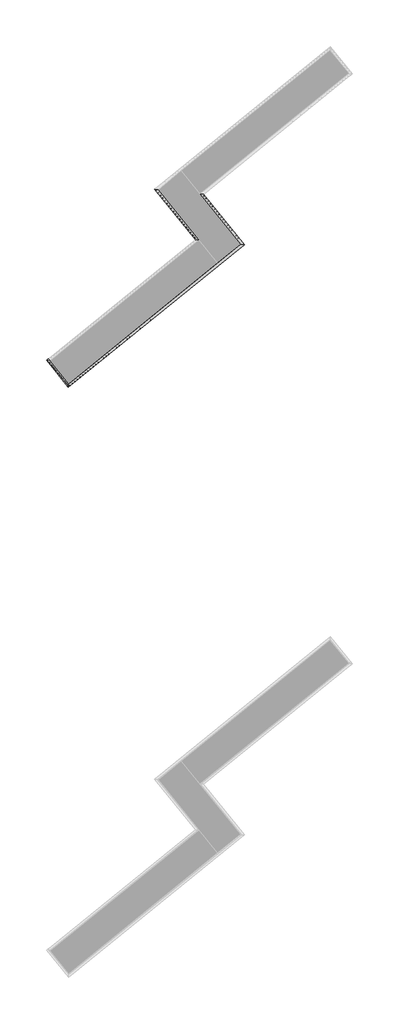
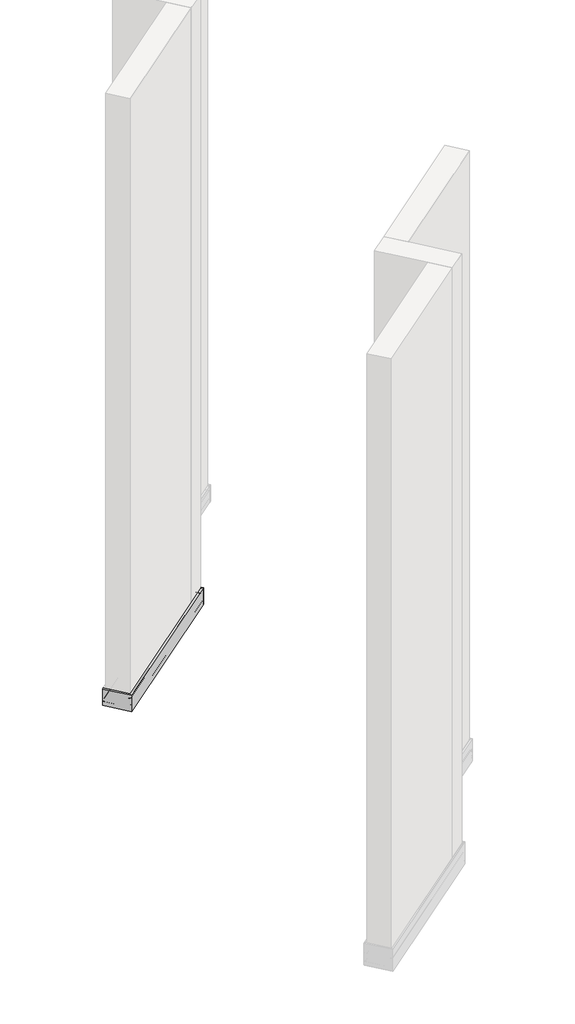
# One storey, part 11 of 21: 3 proxies.
"""IFC4 building model written with IfcOpenShell, lengths in millimetres."""

from ifc_helpers import new_model, si_unit, frame, origin, place, context, project, spatial, circle_curve, ellipse_curve, element, save
from ifc_brep_helpers import plane_surface, cylinder_surface, advanced_brep

model = new_model("IFC4")

# Units and contexts
model_context = context("Model", 3, world=origin())
ifc_project = project(units=[si_unit("LENGTHUNIT", "METRE", prefix="MILLI")], contexts=[model_context])

# Site, building, storey
site = spatial("IfcSite", under=ifc_project)
building = spatial("IfcBuilding", under=site)
storey = spatial("IfcBuildingStorey", under=building, Name="Izofleks 2D View", Elevation=0.0)

# Proxies
placement = place(None, origin())
element("IfcBuildingElementProxy", 1, Name="Wall Sweeps", at=placement, inside=storey, context=model_context, shape_type="AdvancedBrep", body=[
    advanced_brep(
    [(2296.8983438, -3174.5855554, 18.3), (2297.5691855, -3174.6560638, 17.65), (2296.8983438, -3174.5855554, 17.0), (2289.866434, -3173.8464719, 17.0), (2289.866434, -3173.8464719, 0.0), (2288.0380278, -3173.6542987, 0.0), (2288.0380278, -3173.6542987, 54.9539392), (2289.866434, -3173.8464719, 54.0), (2289.866434, -3173.8464719, 47.8897878), (2293.369118, -3174.2146189, 47.8897878), (2292.064077, -3174.0774535, 48.4041237), (2291.3726552, -3174.0047822, 48.9953783), (2294.0078588, -3174.2817532, 59.0889272), (2294.7513255, -3174.3598947, 59.697019), (2299.039841, -3174.8106359, 59.697019), (2299.039841, -3174.8106359, 75.2072285), (2289.6169384, -3173.8202489, 75.2072285), (2289.6169384, -3173.8202489, 76.5072312), (2300.8686692, -3175.0028535, 76.5072312), (2300.8686692, -3175.0028535, 0.5072312), (2296.2269083, -3174.5149847, 0.5072312), (2296.2269083, -3174.5149847, 1.8072312), (2299.039841, -3174.8106359, 1.8072312), (2299.039841, -3174.8106359, 28.807219), (2295.6537121, -3174.4547394, 28.807219), (2295.4447315, -3174.4327746, 28.0173861), (2296.7219024, -3174.5670107, 28.0173861), (2297.4086935, -3174.6391954, 27.4098979), (2294.5883098, -3174.3427611, 18.3), (2435.3488299, -3345.557667, 18.3), (2433.0387959, -3345.3148726, 18.3), (2435.8591795, -3345.6113069, 27.4098979), (2435.1723884, -3345.5391222, 28.0173861), (2433.8952175, -3345.4048862, 28.0173861), (2434.1041981, -3345.4268509, 28.807219), (2437.4903271, -3345.7827474, 28.807219), (2437.4903271, -3345.7827474, 1.8072312), (2434.6773944, -3345.4870963, 1.8072312), (2434.6773944, -3345.4870963, 0.5072312), (2439.3191553, -3345.974965, 0.5072312), (2439.3191553, -3345.974965, 76.5072312), (2428.0674244, -3344.7923604, 76.5072312), (2428.0674244, -3344.7923604, 75.2072285), (2437.4903271, -3345.7827474, 75.2072285), (2437.4903271, -3345.7827474, 59.697019), (2433.2018115, -3345.3320062, 59.697019), (2432.4583448, -3345.2538647, 59.0889272), (2429.8231412, -3344.9768937, 48.9953783), (2430.514563, -3345.049565, 48.4041237), (2431.819604, -3345.1867304, 47.8897878), (2428.31692, -3344.8185835, 47.8897878), (2428.31692, -3344.8185835, 54.0), (2426.4885138, -3344.6264102, 54.9539392), (2426.4885138, -3344.6264102, 0.0), (2428.31692, -3344.8185835, 0.0), (2428.31692, -3344.8185835, 17.0), (2435.3488299, -3345.557667, 17.0), (2436.0196716, -3345.6281753, 17.65)],
    [
        (0, 1, ellipse_curve(frame((2296.8983438, -3174.5855554, 17.8), z_axis=(0.10452846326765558, 0.9945218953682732, 0.0), x_axis=(-0.9945218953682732, 0.10452846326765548, 0.0)), 0.7071068, 0.5)),
        (1, 2, ellipse_curve(frame((2296.8983438, -3174.5855554, 17.5), z_axis=(0.10452846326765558, 0.9945218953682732, 0.0), x_axis=(-0.9945218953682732, 0.10452846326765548, 0.0)), 0.7071068, 0.5)),
        (2, 3),
        (3, 4),
        (4, 5),
        (5, 6),
        (6, 7, ellipse_curve(frame((2288.4599677, -3173.6986464, 54.0), z_axis=(0.10452846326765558, 0.9945218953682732, 0.0), x_axis=(-0.9945218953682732, 0.10452846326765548, 0.0)), 1.4142136, 1.0)),
        (7, 8),
        (8, 9),
        (9, 10),
        (10, 11, ellipse_curve(frame((2292.064077, -3174.0774535, 48.9041237), z_axis=(0.10452846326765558, 0.9945218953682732, 0.0), x_axis=(-0.9945218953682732, 0.10452846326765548, 0.0)), 0.7071068, 0.5)),
        (11, 12),
        (12, 13, ellipse_curve(frame((2294.7513255, -3174.3598947, 59.163218), z_axis=(0.10452846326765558, 0.9945218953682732, 0.0), x_axis=(-0.9945218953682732, 0.10452846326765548, 0.0)), 0.7549087, 0.533801)),
        (13, 14),
        (14, 15),
        (15, 16),
        (16, 17),
        (17, 18),
        (18, 19),
        (19, 20),
        (20, 21),
        (21, 22),
        (22, 23),
        (23, 24),
        (24, 25),
        (25, 26),
        (26, 27, ellipse_curve(frame((2296.7219024, -3174.5670107, 27.5173861), z_axis=(0.10452846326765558, 0.9945218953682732, 0.0), x_axis=(-0.9945218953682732, 0.10452846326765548, 0.0)), 0.7071068, 0.5)),
        (27, 28),
        (28, 0),
        (29, 30),
        (30, 31),
        (31, 32, ellipse_curve(frame((2435.1723884, -3345.5391222, 27.5173861), z_axis=(-0.1045284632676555, -0.9945218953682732, 0.0), x_axis=(-0.9945218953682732, 0.1045284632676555, 0.0)), 0.7071068, 0.5)),
        (32, 33),
        (33, 34),
        (34, 35),
        (35, 36),
        (36, 37),
        (37, 38),
        (38, 39),
        (39, 40),
        (40, 41),
        (41, 42),
        (42, 43),
        (43, 44),
        (44, 45),
        (45, 46, ellipse_curve(frame((2433.2018115, -3345.3320062, 59.163218), z_axis=(-0.1045284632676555, -0.9945218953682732, 0.0), x_axis=(-0.9945218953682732, 0.1045284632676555, 0.0)), 0.7549087, 0.533801)),
        (46, 47),
        (47, 48, ellipse_curve(frame((2430.514563, -3345.049565, 48.9041237), z_axis=(-0.1045284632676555, -0.9945218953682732, 0.0), x_axis=(-0.9945218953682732, 0.1045284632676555, 0.0)), 0.7071068, 0.5)),
        (48, 49),
        (49, 50),
        (50, 51),
        (51, 52, ellipse_curve(frame((2426.9104537, -3344.6707579, 54.0), z_axis=(-0.1045284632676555, -0.9945218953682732, 0.0), x_axis=(-0.9945218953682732, 0.1045284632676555, 0.0)), 1.4142136, 1.0)),
        (52, 53),
        (53, 54),
        (54, 55),
        (55, 56),
        (56, 57, ellipse_curve(frame((2435.3488299, -3345.557667, 17.5), z_axis=(-0.1045284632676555, -0.9945218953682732, 0.0), x_axis=(-0.9945218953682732, 0.1045284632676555, 0.0)), 0.7071068, 0.5)),
        (57, 29, ellipse_curve(frame((2435.3488299, -3345.557667, 17.8), z_axis=(-0.1045284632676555, -0.9945218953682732, 0.0), x_axis=(-0.9945218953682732, 0.1045284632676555, 0.0)), 0.7071068, 0.5)),
        (0, 29),
        (57, 1),
        (56, 2),
        (55, 3),
        (54, 4),
        (53, 5),
        (52, 6),
        (51, 7),
        (50, 8),
        (49, 9),
        (48, 10),
        (47, 11),
        (46, 12),
        (45, 13),
        (44, 14),
        (43, 15),
        (42, 16),
        (41, 17),
        (40, 18),
        (39, 19),
        (38, 20),
        (37, 21),
        (36, 22),
        (35, 23),
        (34, 24),
        (33, 25),
        (32, 26),
        (31, 27),
        (30, 28),
    ],
    [
        plane_surface(frame((2288.0380278, -3173.6542987, -304.8), z_axis=(0.10452846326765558, 0.9945218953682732, 0.0), x_axis=(0.9945218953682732, -0.10452846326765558, 0.0))),
        plane_surface(frame((2426.4885138, -3344.6264102, 304.8), z_axis=(-0.1045284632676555, -0.9945218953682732, 0.0), x_axis=(-0.9945218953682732, 0.1045284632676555, 0.0))),
        cylinder_surface(frame((2292.9338142, -3169.689769, 17.8), z_axis=(-0.629320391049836, 0.7771459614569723, 0.0), x_axis=(0.7771459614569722, 0.6293203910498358, -1.2369127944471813e-08)), 0.5),
        cylinder_surface(frame((2292.9338142, -3169.689769, 17.5), z_axis=(-0.6293203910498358, 0.7771459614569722, 0.0), x_axis=(0.0, 0.0, -1.0)), 0.5),
        plane_surface(frame((2296.8983438, -3174.5855554, 17.0), z_axis=(0.0, 0.0, -1.0), x_axis=(0.6293203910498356, -0.7771459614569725, 0.0))),
        plane_surface(frame((2289.866434, -3173.8464719, 17.0), z_axis=(0.7771459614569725, 0.6293203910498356, 0.0), x_axis=(0.6293203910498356, -0.7771459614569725, 0.0))),
        plane_surface(frame((2289.866434, -3173.8464719, 0.0), z_axis=(0.0, 0.0, -1.0), x_axis=(0.6293203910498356, -0.7771459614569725, 0.0))),
        plane_surface(frame((2288.0380278, -3173.6542987, 0.0), z_axis=(-0.7771459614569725, -0.6293203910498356, 0.0), x_axis=(0.6293203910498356, -0.7771459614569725, 0.0))),
        cylinder_surface(frame((2288.2711715, -3173.4655026, 54.0), z_axis=(-0.6293203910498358, 0.7771459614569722, 0.0), x_axis=(0.7771459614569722, 0.6293203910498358, 0.0)), 1.0),
        plane_surface(frame((2289.866434, -3173.8464719, 54.0), z_axis=(0.7771459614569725, 0.6293203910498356, 0.0), x_axis=(0.6293203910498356, -0.7771459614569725, 0.0))),
        plane_surface(frame((2289.866434, -3173.8464719, 47.8897878), z_axis=(0.0, 0.0, 1.0), x_axis=(0.6293203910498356, -0.7771459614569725, 0.0))),
        plane_surface(frame((2293.369118, -3174.2146189, 47.8897878), z_axis=(-0.37676783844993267, -0.30510057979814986, -0.8746197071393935), x_axis=(0.6293203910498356, -0.7771459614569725, 0.0))),
        cylinder_surface(frame((2290.2626298, -3171.8528515, 48.9041237), z_axis=(-0.6293203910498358, 0.7771459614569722, 0.0), x_axis=(-0.764093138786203, -0.6187504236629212, 0.18250914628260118)), 0.5),
        plane_surface(frame((2291.3726552, -3174.0047822, 48.9953783), z_axis=(-0.7640931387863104, -0.6187504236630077, 0.18250914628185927), x_axis=(0.6293203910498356, -0.7771459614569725, 0.0))),
        cylinder_surface(frame((2291.7474746, -3170.6504478, 59.163218), z_axis=(-0.6293203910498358, 0.7771459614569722, 0.0), x_axis=(0.7771459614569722, 0.6293203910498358, 0.0)), 0.533801),
        plane_surface(frame((2294.7513255, -3174.3598947, 59.697019), z_axis=(0.0, 0.0, 1.0), x_axis=(0.6293203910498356, -0.7771459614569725, 0.0))),
        plane_surface(frame((2299.039841, -3174.8106359, 59.697019), z_axis=(-0.7771459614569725, -0.6293203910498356, 0.0), x_axis=(0.6293203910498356, -0.7771459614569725, 0.0))),
        plane_surface(frame((2299.039841, -3174.8106359, 75.2072285), z_axis=(0.0, 0.0, -1.0), x_axis=(0.6293203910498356, -0.7771459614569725, 0.0))),
        plane_surface(frame((2289.6169384, -3173.8202489, 75.2072285), z_axis=(-0.7771459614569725, -0.6293203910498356, 0.0), x_axis=(0.6293203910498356, -0.7771459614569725, 0.0))),
        plane_surface(frame((2289.6169384, -3173.8202489, 76.5072312), z_axis=(0.0, 0.0, 1.0), x_axis=(0.6293203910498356, -0.7771459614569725, 0.0))),
        plane_surface(frame((2300.8686692, -3175.0028535, 76.5072312), z_axis=(0.7771459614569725, 0.6293203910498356, 0.0), x_axis=(0.6293203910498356, -0.7771459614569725, 0.0))),
        plane_surface(frame((2300.8686692, -3175.0028535, 0.5072312), z_axis=(0.0, 0.0, -1.0), x_axis=(0.6293203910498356, -0.7771459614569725, 0.0))),
        plane_surface(frame((2296.2269083, -3174.5149847, 0.5072312), z_axis=(-0.7771459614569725, -0.6293203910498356, 0.0), x_axis=(0.6293203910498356, -0.7771459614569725, 0.0))),
        plane_surface(frame((2296.2269083, -3174.5149847, 1.8072312), z_axis=(0.0, 0.0, 1.0), x_axis=(0.6293203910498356, -0.7771459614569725, 0.0))),
        plane_surface(frame((2299.039841, -3174.8106359, 1.8072312), z_axis=(-0.7771459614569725, -0.6293203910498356, 0.0), x_axis=(0.6293203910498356, -0.7771459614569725, 0.0))),
        plane_surface(frame((2299.039841, -3174.8106359, 28.807219), z_axis=(0.0, 0.0, -1.0), x_axis=(0.6293203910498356, -0.7771459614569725, 0.0))),
        plane_surface(frame((2295.6537121, -3174.4547394, 28.807219), z_axis=(0.7637488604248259, 0.618471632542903, -0.1848797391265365), x_axis=(0.6293203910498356, -0.7771459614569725, 0.0))),
        plane_surface(frame((2295.4447315, -3174.4327746, 28.0173861), z_axis=(0.0, 0.0, 1.0), x_axis=(0.6293203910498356, -0.7771459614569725, 0.0))),
        cylinder_surface(frame((2292.8363211, -3169.7687174, 27.5173861), z_axis=(-0.6293203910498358, 0.7771459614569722, 0.0), x_axis=(0.7589795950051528, 0.614609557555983, -0.2149536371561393)), 0.5),
        plane_surface(frame((2297.4086935, -3174.6391954, 27.4098979), z_axis=(0.7589757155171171, 0.6146064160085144, -0.21497631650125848), x_axis=(0.6293203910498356, -0.7771459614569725, 0.0))),
        plane_surface(frame((2294.5883098, -3174.3427611, 18.3), z_axis=(0.0, 0.0, 1.0), x_axis=(0.6293203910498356, -0.7771459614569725, 0.0))),
    ],
    [
        (0, [[1, 2, 3, 4, 5, 6, 7, 8, 9, 10, 11, 12, 13, 14, 15, 16, 17, 18, 19, 20, 21, 22, 23, 24, 25, 26, 27, 28, 29]]),
        (1, [[30, 31, 32, 33, 34, 35, 36, 37, 38, 39, 40, 41, 42, 43, 44, 45, 46, 47, 48, 49, 50, 51, 52, 53, 54, 55, 56, 57, 58]]),
        (2, [[-1, 59, -58, 60]]),
        (3, [[-2, -60, -57, 61]]),
        (4, [[-3, -61, -56, 62]]),
        (5, [[-4, -62, -55, 63]]),
        (6, [[-5, -63, -54, 64]]),
        (7, [[-6, -64, -53, 65]]),
        (8, [[-7, -65, -52, 66]]),
        (9, [[-8, -66, -51, 67]]),
        (10, [[-9, -67, -50, 68]]),
        (11, [[-10, -68, -49, 69]]),
        (12, [[-11, -69, -48, 70]]),
        (13, [[-12, -70, -47, 71]]),
        (14, [[-13, -71, -46, 72]]),
        (15, [[-14, -72, -45, 73]]),
        (16, [[-15, -73, -44, 74]]),
        (17, [[-16, -74, -43, 75]]),
        (18, [[-17, -75, -42, 76]]),
        (19, [[-18, -76, -41, 77]]),
        (20, [[-19, -77, -40, 78]]),
        (21, [[-20, -78, -39, 79]]),
        (22, [[-21, -79, -38, 80]]),
        (23, [[-22, -80, -37, 81]]),
        (24, [[-23, -81, -36, 82]]),
        (25, [[-24, -82, -35, 83]]),
        (26, [[-25, -83, -34, 84]]),
        (27, [[-26, -84, -33, 85]]),
        (28, [[-27, -85, -32, 86]]),
        (29, [[-28, -86, -31, 87]]),
        (30, [[-29, -87, -30, -59]]),
    ],
),
])
element("IfcBuildingElementProxy", 2, Name="Wall Sweeps", at=placement, inside=storey, context=model_context, shape_type="AdvancedBrep", body=[
    advanced_brep(
    [(2138.5310764, -3157.9404849, 18.3), (2140.8411104, -3158.1832793, 18.3), (2138.0207268, -3157.886845, 27.4098979), (2138.7075178, -3157.9590297, 28.0173861), (2139.9846888, -3158.0932657, 28.0173861), (2139.7757082, -3158.071301, 28.807219), (2136.3895792, -3157.7154045, 28.807219), (2136.3895792, -3157.7154045, 1.8072312), (2139.2025119, -3158.0110556, 1.8072312), (2139.2025119, -3158.0110556, 0.5072312), (2134.560751, -3157.5231869, 0.5072312), (2134.560751, -3157.5231869, 76.5072312), (2145.8124819, -3158.7057915, 76.5072312), (2145.8124819, -3158.7057915, 75.2072285), (2136.3895792, -3157.7154045, 75.2072285), (2136.3895792, -3157.7154045, 59.697019), (2140.6780948, -3158.1661456, 59.697019), (2141.4215615, -3158.2442871, 59.0889272), (2144.0567651, -3158.5212582, 48.9953783), (2143.3653433, -3158.4485868, 48.4041237), (2142.0603023, -3158.3114215, 47.8897878), (2145.5629862, -3158.6795684, 47.8897878), (2145.5629862, -3158.6795684, 54.0), (2147.3913925, -3158.8717417, 54.9539392), (2147.3913925, -3158.8717417, 0.0), (2145.5629862, -3158.6795684, 0.0), (2145.5629862, -3158.6795684, 17.0), (2138.5310764, -3157.9404849, 17.0), (2137.8602347, -3157.8699766, 17.65), (2276.9815624, -3328.9125964, 18.3), (2276.3107208, -3328.8420881, 17.65), (2276.9815625, -3328.9125964, 17.0), (2284.0134723, -3329.6516799, 17.0), (2284.0134723, -3329.6516799, 0.0), (2285.8418785, -3329.8438532, 0.0), (2285.8418785, -3329.8438532, 54.9539392), (2284.0134723, -3329.6516799, 54.0), (2284.0134723, -3329.6516799, 47.8897878), (2280.5107883, -3329.283533, 47.8897878), (2281.8158293, -3329.4206984, 48.4041237), (2282.5072511, -3329.4933697, 48.9953783), (2279.8720475, -3329.2163987, 59.0889272), (2279.1285808, -3329.1382572, 59.697019), (2274.8400653, -3328.687516, 59.697019), (2274.8400653, -3328.687516, 75.2072285), (2284.2629679, -3329.677903, 75.2072285), (2284.2629679, -3329.677903, 76.5072312), (2273.0112371, -3328.4952984, 76.5072312), (2273.0112371, -3328.4952984, 0.5072312), (2277.652998, -3328.9831672, 0.5072312), (2277.652998, -3328.9831672, 1.8072312), (2274.8400653, -3328.687516, 1.8072312), (2274.8400653, -3328.687516, 28.807219), (2278.2261942, -3329.0434125, 28.807219), (2278.4351748, -3329.0653773, 28.0173861), (2277.1580039, -3328.9311412, 28.0173861), (2276.4712128, -3328.8589565, 27.4098979), (2279.2915965, -3329.1553908, 18.3)],
    [
        (0, 1),
        (1, 2),
        (2, 3, ellipse_curve(frame((2138.7075178, -3157.9590297, 27.5173861), z_axis=(0.10452846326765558, 0.9945218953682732, 0.0), x_axis=(-0.9945218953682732, 0.10452846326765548, 0.0)), 0.7071068, 0.5)),
        (3, 4),
        (4, 5),
        (5, 6),
        (6, 7),
        (7, 8),
        (8, 9),
        (9, 10),
        (10, 11),
        (11, 12),
        (12, 13),
        (13, 14),
        (14, 15),
        (15, 16),
        (16, 17, ellipse_curve(frame((2140.6780948, -3158.1661456, 59.163218), z_axis=(0.10452846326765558, 0.9945218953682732, 0.0), x_axis=(-0.9945218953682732, 0.10452846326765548, 0.0)), 0.7549087, 0.533801)),
        (17, 18),
        (18, 19, ellipse_curve(frame((2143.3653433, -3158.4485868, 48.9041237), z_axis=(0.10452846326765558, 0.9945218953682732, 0.0), x_axis=(-0.9945218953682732, 0.10452846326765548, 0.0)), 0.7071068, 0.5)),
        (19, 20),
        (20, 21),
        (21, 22),
        (22, 23, ellipse_curve(frame((2146.9694526, -3158.827394, 54.0), z_axis=(0.10452846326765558, 0.9945218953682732, 0.0), x_axis=(-0.9945218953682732, 0.10452846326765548, 0.0)), 1.4142136, 1.0)),
        (23, 24),
        (24, 25),
        (25, 26),
        (26, 27),
        (27, 28, ellipse_curve(frame((2138.5310764, -3157.9404849, 17.5), z_axis=(0.10452846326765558, 0.9945218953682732, 0.0), x_axis=(-0.9945218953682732, 0.10452846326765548, 0.0)), 0.7071068, 0.5)),
        (28, 0, ellipse_curve(frame((2138.5310764, -3157.9404849, 17.8), z_axis=(0.10452846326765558, 0.9945218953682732, 0.0), x_axis=(-0.9945218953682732, 0.10452846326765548, 0.0)), 0.7071068, 0.5)),
        (29, 30, ellipse_curve(frame((2276.9815624, -3328.9125964, 17.8), z_axis=(-0.1045284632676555, -0.9945218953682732, 0.0), x_axis=(-0.9945218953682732, 0.1045284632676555, 0.0)), 0.7071068, 0.5)),
        (30, 31, ellipse_curve(frame((2276.9815625, -3328.9125964, 17.5), z_axis=(-0.1045284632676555, -0.9945218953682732, 0.0), x_axis=(-0.9945218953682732, 0.1045284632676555, 0.0)), 0.7071068, 0.5)),
        (31, 32),
        (32, 33),
        (33, 34),
        (34, 35),
        (35, 36, ellipse_curve(frame((2285.4199386, -3329.7995055, 54.0), z_axis=(-0.1045284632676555, -0.9945218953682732, 0.0), x_axis=(-0.9945218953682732, 0.1045284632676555, 0.0)), 1.4142136, 1.0)),
        (36, 37),
        (37, 38),
        (38, 39),
        (39, 40, ellipse_curve(frame((2281.8158293, -3329.4206984, 48.9041237), z_axis=(-0.1045284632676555, -0.9945218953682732, 0.0), x_axis=(-0.9945218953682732, 0.1045284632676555, 0.0)), 0.7071068, 0.5)),
        (40, 41),
        (41, 42, ellipse_curve(frame((2279.1285808, -3329.1382572, 59.163218), z_axis=(-0.1045284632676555, -0.9945218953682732, 0.0), x_axis=(-0.9945218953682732, 0.1045284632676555, 0.0)), 0.7549087, 0.533801)),
        (42, 43),
        (43, 44),
        (44, 45),
        (45, 46),
        (46, 47),
        (47, 48),
        (48, 49),
        (49, 50),
        (50, 51),
        (51, 52),
        (52, 53),
        (53, 54),
        (54, 55),
        (55, 56, ellipse_curve(frame((2277.1580039, -3328.9311412, 27.5173861), z_axis=(-0.1045284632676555, -0.9945218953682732, 0.0), x_axis=(-0.9945218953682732, 0.1045284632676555, 0.0)), 0.7071068, 0.5)),
        (56, 57),
        (57, 29),
        (0, 29),
        (57, 1),
        (56, 2),
        (55, 3),
        (54, 4),
        (53, 5),
        (52, 6),
        (51, 7),
        (50, 8),
        (49, 9),
        (48, 10),
        (47, 11),
        (46, 12),
        (45, 13),
        (44, 14),
        (43, 15),
        (42, 16),
        (41, 17),
        (40, 18),
        (39, 19),
        (38, 20),
        (37, 21),
        (36, 22),
        (35, 23),
        (34, 24),
        (33, 25),
        (32, 26),
        (31, 27),
        (30, 28),
    ],
    [
        plane_surface(frame((2147.3913925, -3158.8717417, -304.8), z_axis=(0.10452846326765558, 0.9945218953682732, 0.0), x_axis=(0.9945218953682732, -0.10452846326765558, 0.0))),
        plane_surface(frame((2285.8418785, -3329.8438532, 304.8), z_axis=(-0.1045284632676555, -0.9945218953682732, 0.0), x_axis=(-0.9945218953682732, 0.1045284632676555, 0.0))),
        plane_surface(frame((2138.5310764, -3157.9404849, 18.3), z_axis=(0.0, 0.0, 1.0), x_axis=(0.6293203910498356, -0.7771459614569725, 0.0))),
        plane_surface(frame((2140.8411104, -3158.1832793, 18.3), z_axis=(-0.7589757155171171, -0.6146064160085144, -0.21497631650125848), x_axis=(0.6293203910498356, -0.7771459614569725, 0.0))),
        cylinder_surface(frame((2142.5930992, -3162.757323, 27.5173861), z_axis=(-0.6293203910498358, 0.7771459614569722, 0.0), x_axis=(-0.7589795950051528, -0.614609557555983, -0.2149536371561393)), 0.5),
        plane_surface(frame((2138.7075178, -3157.9590297, 28.0173861), z_axis=(0.0, 0.0, 1.0), x_axis=(0.6293203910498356, -0.7771459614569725, 0.0))),
        plane_surface(frame((2139.9846888, -3158.0932657, 28.0173861), z_axis=(-0.7637488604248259, -0.618471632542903, -0.1848797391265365), x_axis=(0.6293203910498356, -0.7771459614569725, 0.0))),
        plane_surface(frame((2139.7757082, -3158.071301, 28.807219), z_axis=(0.0, 0.0, -1.0), x_axis=(0.6293203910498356, -0.7771459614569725, 0.0))),
        plane_surface(frame((2136.3895792, -3157.7154045, 28.807219), z_axis=(0.7771459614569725, 0.6293203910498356, 0.0), x_axis=(0.6293203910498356, -0.7771459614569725, 0.0))),
        plane_surface(frame((2136.3895792, -3157.7154045, 1.8072312), z_axis=(0.0, 0.0, 1.0), x_axis=(0.6293203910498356, -0.7771459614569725, 0.0))),
        plane_surface(frame((2139.2025119, -3158.0110556, 1.8072312), z_axis=(0.7771459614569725, 0.6293203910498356, 0.0), x_axis=(0.6293203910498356, -0.7771459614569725, 0.0))),
        plane_surface(frame((2139.2025119, -3158.0110556, 0.5072312), z_axis=(0.0, 0.0, -1.0), x_axis=(0.6293203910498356, -0.7771459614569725, 0.0))),
        plane_surface(frame((2134.560751, -3157.5231869, 0.5072312), z_axis=(-0.7771459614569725, -0.6293203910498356, 0.0), x_axis=(0.6293203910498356, -0.7771459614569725, 0.0))),
        plane_surface(frame((2134.560751, -3157.5231869, 76.5072312), z_axis=(0.0, 0.0, 1.0), x_axis=(0.6293203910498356, -0.7771459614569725, 0.0))),
        plane_surface(frame((2145.8124819, -3158.7057915, 76.5072312), z_axis=(0.7771459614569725, 0.6293203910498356, 0.0), x_axis=(0.6293203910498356, -0.7771459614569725, 0.0))),
        plane_surface(frame((2145.8124819, -3158.7057915, 75.2072285), z_axis=(0.0, 0.0, -1.0), x_axis=(0.6293203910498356, -0.7771459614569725, 0.0))),
        plane_surface(frame((2136.3895792, -3157.7154045, 75.2072285), z_axis=(0.7771459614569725, 0.6293203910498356, 0.0), x_axis=(0.6293203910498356, -0.7771459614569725, 0.0))),
        plane_surface(frame((2136.3895792, -3157.7154045, 59.697019), z_axis=(0.0, 0.0, 1.0), x_axis=(0.6293203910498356, -0.7771459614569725, 0.0))),
        cylinder_surface(frame((2143.6819456, -3161.8755925, 59.163218), z_axis=(-0.6293203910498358, 0.7771459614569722, 0.0), x_axis=(-0.7771459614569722, -0.6293203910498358, 0.0)), 0.533801),
        plane_surface(frame((2141.4215615, -3158.2442871, 59.0889272), z_axis=(0.7640931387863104, 0.6187504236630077, 0.18250914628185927), x_axis=(0.6293203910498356, -0.7771459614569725, 0.0))),
        cylinder_surface(frame((2145.1667905, -3160.6731889, 48.9041237), z_axis=(-0.6293203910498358, 0.7771459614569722, 0.0), x_axis=(0.764093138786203, 0.6187504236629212, 0.18250914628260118)), 0.5),
        plane_surface(frame((2143.3653433, -3158.4485868, 48.4041237), z_axis=(0.37676783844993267, 0.30510057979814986, -0.8746197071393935), x_axis=(0.6293203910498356, -0.7771459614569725, 0.0))),
        plane_surface(frame((2142.0603023, -3158.3114215, 47.8897878), z_axis=(0.0, 0.0, 1.0), x_axis=(0.6293203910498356, -0.7771459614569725, 0.0))),
        plane_surface(frame((2145.5629862, -3158.6795684, 47.8897878), z_axis=(-0.7771459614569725, -0.6293203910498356, 0.0), x_axis=(0.6293203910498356, -0.7771459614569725, 0.0))),
        cylinder_surface(frame((2147.1582487, -3159.0605378, 54.0), z_axis=(-0.6293203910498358, 0.7771459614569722, 0.0), x_axis=(-0.7771459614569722, -0.6293203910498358, 0.0)), 1.0),
        plane_surface(frame((2147.3913925, -3158.8717417, 54.9539392), z_axis=(0.7771459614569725, 0.6293203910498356, 0.0), x_axis=(0.6293203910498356, -0.7771459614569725, 0.0))),
        plane_surface(frame((2147.3913925, -3158.8717417, 0.0), z_axis=(0.0, 0.0, -1.0), x_axis=(0.6293203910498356, -0.7771459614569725, 0.0))),
        plane_surface(frame((2145.5629862, -3158.6795684, 0.0), z_axis=(-0.7771459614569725, -0.6293203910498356, 0.0), x_axis=(0.6293203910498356, -0.7771459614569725, 0.0))),
        plane_surface(frame((2145.5629862, -3158.6795684, 17.0), z_axis=(0.0, 0.0, -1.0), x_axis=(0.6293203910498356, -0.7771459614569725, 0.0))),
        cylinder_surface(frame((2142.4956061, -3162.8362713, 17.5), z_axis=(-0.6293203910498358, 0.7771459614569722, 0.0), x_axis=(0.0, 0.0, -1.0)), 0.5),
        cylinder_surface(frame((2142.4956061, -3162.8362713, 17.8), z_axis=(-0.629320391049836, 0.7771459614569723, 0.0), x_axis=(-0.7771459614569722, -0.6293203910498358, -1.2369127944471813e-08)), 0.5),
    ],
    [
        (0, [[1, 2, 3, 4, 5, 6, 7, 8, 9, 10, 11, 12, 13, 14, 15, 16, 17, 18, 19, 20, 21, 22, 23, 24, 25, 26, 27, 28, 29]]),
        (1, [[30, 31, 32, 33, 34, 35, 36, 37, 38, 39, 40, 41, 42, 43, 44, 45, 46, 47, 48, 49, 50, 51, 52, 53, 54, 55, 56, 57, 58]]),
        (2, [[-1, 59, -58, 60]]),
        (3, [[-2, -60, -57, 61]]),
        (4, [[-3, -61, -56, 62]]),
        (5, [[-4, -62, -55, 63]]),
        (6, [[-5, -63, -54, 64]]),
        (7, [[-6, -64, -53, 65]]),
        (8, [[-7, -65, -52, 66]]),
        (9, [[-8, -66, -51, 67]]),
        (10, [[-9, -67, -50, 68]]),
        (11, [[-10, -68, -49, 69]]),
        (12, [[-11, -69, -48, 70]]),
        (13, [[-12, -70, -47, 71]]),
        (14, [[-13, -71, -46, 72]]),
        (15, [[-14, -72, -45, 73]]),
        (16, [[-15, -73, -44, 74]]),
        (17, [[-16, -74, -43, 75]]),
        (18, [[-17, -75, -42, 76]]),
        (19, [[-18, -76, -41, 77]]),
        (20, [[-19, -77, -40, 78]]),
        (21, [[-20, -78, -39, 79]]),
        (22, [[-21, -79, -38, 80]]),
        (23, [[-22, -80, -37, 81]]),
        (24, [[-23, -81, -36, 82]]),
        (25, [[-24, -82, -35, 83]]),
        (26, [[-25, -83, -34, 84]]),
        (27, [[-26, -84, -33, 85]]),
        (28, [[-27, -85, -32, 86]]),
        (29, [[-28, -86, -31, 87]]),
        (30, [[-29, -87, -30, -59]]),
    ],
),
])
element("IfcBuildingElementProxy", 3, Name="Wall Sweeps", at=placement, inside=storey, context=model_context, shape_type="AdvancedBrep", body=[
    advanced_brep(
    [(2435.3488299, -3345.557667, 18.3), (2436.0196716, -3345.6281753, 17.65), (2435.3488299, -3345.557667, 17.0), (2428.31692, -3344.8185835, 17.0), (2428.31692, -3344.8185835, 0.0), (2426.4885138, -3344.6264102, 0.0), (2426.4885138, -3344.6264102, 54.9539392), (2428.31692, -3344.8185835, 54.0), (2428.31692, -3344.8185835, 47.8897878), (2431.819604, -3345.1867304, 47.8897878), (2430.514563, -3345.049565, 48.4041237), (2429.8231412, -3344.9768937, 48.9953783), (2432.4583448, -3345.2538647, 59.0889272), (2433.2018115, -3345.3320062, 59.697019), (2437.4903271, -3345.7827474, 59.697019), (2437.4903271, -3345.7827474, 75.2072285), (2428.0674244, -3344.7923604, 75.2072285), (2428.0674244, -3344.7923604, 76.5072312), (2439.3191553, -3345.974965, 76.5072312), (2439.3191553, -3345.974965, 0.5072312), (2434.6773944, -3345.4870963, 0.5072312), (2434.6773944, -3345.4870963, 1.8072312), (2437.4903271, -3345.7827474, 1.8072312), (2437.4903271, -3345.7827474, 28.807219), (2434.1041981, -3345.4268509, 28.807219), (2433.8952175, -3345.4048862, 28.0173861), (2435.1723884, -3345.5391222, 28.0173861), (2435.8591795, -3345.6113069, 27.4098979), (2433.0387959, -3345.3148726, 18.3), (1842.6977859, -3825.4770196, 18.3), (1842.6272776, -3826.1478613, 17.65), (1842.6977859, -3825.4770196, 17.0), (1843.4368695, -3818.4451098, 17.0), (1843.4368695, -3818.4451098, 0.0), (1843.6290427, -3816.6167035, 0.0), (2348.7739176, -3407.5584493, 0.0), (1843.6290427, -3816.6167035, 54.9539392), (1843.4368695, -3818.4451098, 54.0), (1843.4368695, -3818.4451098, 47.8897878), (1843.0687225, -3821.9477938, 47.8897878), (1843.2058879, -3820.6427527, 48.4041237), (1843.2785592, -3819.951331, 48.9953783), (1843.0015882, -3822.5865345, 59.0889272), (1842.9234467, -3823.3300013, 59.697019), (1842.4727055, -3827.6185168, 59.697019), (1842.4727055, -3827.6185168, 75.2072285), (1843.4630925, -3818.1956142, 75.2072285), (1843.4630925, -3818.1956142, 76.5072312), (1842.2804879, -3829.447345, 76.5072312), (1842.2804879, -3829.447345, 0.5072312), (1842.7683567, -3824.8055841, 0.5072312), (1842.7683567, -3824.8055841, 1.8072312), (1842.4727055, -3827.6185168, 1.8072312), (1842.4727055, -3827.6185168, 28.807219), (1842.828602, -3824.2323878, 28.807219), (1842.8505668, -3824.0234072, 28.0173861), (1842.7163307, -3825.3005782, 28.0173861), (1842.644146, -3825.9873692, 27.4098979), (1842.9405803, -3823.1669856, 18.3), (1770.0601738, -3735.7770389, 18.3), (1771.336588, -3734.7434191, 18.3), (1769.778179, -3736.0053938, 27.4098979), (1770.1576669, -3735.6980906, 28.0173861), (1770.8633704, -3735.1266231, 28.0173861), (1770.7478977, -3735.2201311, 28.807219), (1768.876885, -3736.7352473, 28.807219), (1768.876885, -3736.7352473, 1.8072312), (1770.4311769, -3735.4766065, 1.8072312), (1770.4311769, -3735.4766065, 0.5072312), (1767.8663621, -3737.5535526, 0.5072312), (1767.8663621, -3737.5535526, 76.5072312), (1774.0835298, -3732.5189895, 76.5072312), (1774.0835298, -3732.5189895, 75.2072285), (1768.876885, -3736.7352473, 75.2072285), (1768.876885, -3736.7352473, 59.697019), (1771.2465133, -3734.8163601, 59.697019), (1771.6573175, -3734.4836975, 59.0889272), (1773.1134048, -3733.3045812, 48.9953783), (1772.7313582, -3733.6139564, 48.4041237), (1772.010255, -3734.1978943, 47.8897878), (1773.9456705, -3732.6306258, 47.8897878), (1773.9456705, -3732.6306258, 54.0), (1774.9559602, -3731.8125092, 54.9539392), (1774.9559602, -3731.8125092, 0.0), (1773.9456705, -3732.6306258, 0.0), (1773.9456705, -3732.6306258, 17.0), (1770.0601738, -3735.7770389, 17.0), (1769.6894988, -3736.0772056, 17.65), (1780.6970036, -3738.9021074, 0.0)],
    [
        (0, 1, ellipse_curve(frame((2435.3488299, -3345.557667, 17.8), z_axis=(0.1045284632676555, 0.9945218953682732, 0.0), x_axis=(0.9945218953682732, -0.10452846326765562, 0.0)), 0.7071068, 0.5)),
        (1, 2, ellipse_curve(frame((2435.3488299, -3345.557667, 17.5), z_axis=(0.1045284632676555, 0.9945218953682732, 0.0), x_axis=(0.9945218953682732, -0.10452846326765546, 0.0)), 0.7071068, 0.5)),
        (2, 3),
        (3, 4),
        (4, 5),
        (5, 6),
        (6, 7, ellipse_curve(frame((2426.9104537, -3344.6707579, 54.0), z_axis=(0.1045284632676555, 0.9945218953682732, 0.0), x_axis=(0.9945218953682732, -0.10452846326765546, 0.0)), 1.4142136, 1.0)),
        (7, 8),
        (8, 9),
        (9, 10),
        (10, 11, ellipse_curve(frame((2430.514563, -3345.049565, 48.9041237), z_axis=(0.1045284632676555, 0.9945218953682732, 0.0), x_axis=(0.9945218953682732, -0.10452846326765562, 0.0)), 0.7071068, 0.5)),
        (11, 12),
        (12, 13, ellipse_curve(frame((2433.2018115, -3345.3320062, 59.163218), z_axis=(0.1045284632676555, 0.9945218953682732, 0.0), x_axis=(0.9945218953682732, -0.10452846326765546, 0.0)), 0.7549087, 0.533801)),
        (13, 14),
        (14, 15),
        (15, 16),
        (16, 17),
        (17, 18),
        (18, 19),
        (19, 20),
        (20, 21),
        (21, 22),
        (22, 23),
        (23, 24),
        (24, 25),
        (25, 26),
        (26, 27, ellipse_curve(frame((2435.1723884, -3345.5391222, 27.5173861), z_axis=(0.1045284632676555, 0.9945218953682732, 0.0), x_axis=(0.9945218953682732, -0.10452846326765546, 0.0)), 0.7071068, 0.5)),
        (27, 28),
        (28, 0),
        (0, 29),
        (29, 30, ellipse_curve(frame((1842.6977859, -3825.4770196, 17.8), z_axis=(0.9945218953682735, -0.10452846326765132, 0.0), x_axis=(0.10452846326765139, 0.9945218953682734, 0.0)), 0.7071068, 0.5)),
        (30, 1),
        (30, 31, ellipse_curve(frame((1842.6977859, -3825.4770196, 17.5), z_axis=(0.9945218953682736, -0.10452846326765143, 0.0), x_axis=(0.10452846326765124, 0.9945218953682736, 0.0)), 0.7071068, 0.5)),
        (31, 2),
        (31, 32),
        (32, 3),
        (32, 33),
        (33, 4),
        (33, 34),
        (34, 35),
        (35, 5),
        (34, 36),
        (36, 6),
        (36, 37, ellipse_curve(frame((1843.584695, -3817.0386434, 54.0), z_axis=(0.9945218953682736, -0.10452846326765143, 0.0), x_axis=(0.10452846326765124, 0.9945218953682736, 0.0)), 1.4142136, 1.0)),
        (37, 7),
        (37, 38),
        (38, 8),
        (38, 39),
        (39, 9),
        (39, 40),
        (40, 10),
        (40, 41, ellipse_curve(frame((1843.2058879, -3820.6427527, 48.9041237), z_axis=(0.9945218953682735, -0.1045284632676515, 0.0), x_axis=(0.10452846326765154, 0.9945218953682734, 0.0)), 0.7071068, 0.5)),
        (41, 11),
        (41, 42),
        (42, 12),
        (42, 43, ellipse_curve(frame((1842.9234467, -3823.3300013, 59.163218), z_axis=(0.9945218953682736, -0.10452846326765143, 0.0), x_axis=(0.10452846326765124, 0.9945218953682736, 0.0)), 0.7549087, 0.533801)),
        (43, 13),
        (43, 44),
        (44, 14),
        (44, 45),
        (45, 15),
        (45, 46),
        (46, 16),
        (46, 47),
        (47, 17),
        (47, 48),
        (48, 18),
        (48, 49),
        (49, 19),
        (49, 50),
        (50, 20),
        (50, 51),
        (51, 21),
        (51, 52),
        (52, 22),
        (52, 53),
        (53, 23),
        (53, 54),
        (54, 24),
        (54, 55),
        (55, 25),
        (55, 56),
        (56, 26),
        (56, 57, ellipse_curve(frame((1842.7163307, -3825.3005782, 27.5173861), z_axis=(0.9945218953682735, -0.1045284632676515, 0.0), x_axis=(0.10452846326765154, 0.9945218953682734, 0.0)), 0.7071068, 0.5)),
        (57, 27),
        (57, 58),
        (58, 28),
        (58, 29),
        (59, 60),
        (60, 61),
        (61, 62, circle_curve(frame((1770.1576669, -3735.6980906, 27.5173861), z_axis=(-0.6293203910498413, 0.7771459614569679, 0.0), x_axis=(-0.7589795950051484, -0.6146095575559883, -0.21495363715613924)), 0.5)),
        (62, 63),
        (63, 64),
        (64, 65),
        (65, 66),
        (66, 67),
        (67, 68),
        (68, 69),
        (69, 70),
        (70, 71),
        (71, 72),
        (72, 73),
        (73, 74),
        (74, 75),
        (75, 76, circle_curve(frame((1771.2465133, -3734.8163601, 59.163218), z_axis=(-0.6293203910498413, 0.7771459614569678, 0.0), x_axis=(-0.7771459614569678, -0.6293203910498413, 0.0)), 0.533801)),
        (76, 77),
        (77, 78, circle_curve(frame((1772.7313582, -3733.6139564, 48.9041237), z_axis=(-0.6293203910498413, 0.7771459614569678, 0.0), x_axis=(0.7640931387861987, 0.6187504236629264, 0.18250914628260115)), 0.5)),
        (78, 79),
        (79, 80),
        (80, 81),
        (81, 82, circle_curve(frame((1774.7228164, -3732.0013054, 54.0), z_axis=(-0.6293203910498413, 0.7771459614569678, 0.0), x_axis=(-0.7771459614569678, -0.6293203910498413, 0.0)), 1.0)),
        (82, 83),
        (83, 84),
        (84, 85),
        (85, 86),
        (86, 87, circle_curve(frame((1770.0601738, -3735.7770389, 17.5), z_axis=(-0.6293203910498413, 0.7771459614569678, 0.0), x_axis=(0.0, 0.0, -1.0)), 0.5)),
        (87, 59, circle_curve(frame((1770.0601738, -3735.7770389, 17.8), z_axis=(-0.6293203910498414, 0.7771459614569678, 0.0), x_axis=(-0.7771459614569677, -0.6293203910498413, -1.2369127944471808e-08)), 0.5)),
        (29, 59),
        (87, 30),
        (86, 31),
        (85, 32),
        (84, 33),
        (83, 88),
        (88, 34),
        (82, 36),
        (81, 37),
        (80, 38),
        (79, 39),
        (78, 40),
        (77, 41),
        (76, 42),
        (75, 43),
        (74, 44),
        (73, 45),
        (72, 46),
        (71, 47),
        (70, 48),
        (69, 49),
        (68, 50),
        (67, 51),
        (66, 52),
        (65, 53),
        (64, 54),
        (63, 55),
        (62, 56),
        (61, 57),
        (60, 58),
    ],
    [
        plane_surface(frame((2426.4885138, -3344.6264102, 304.8), z_axis=(0.1045284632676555, 0.9945218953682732, 0.0), x_axis=(-0.9945218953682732, 0.1045284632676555, 0.0))),
        cylinder_surface(frame((2430.4530435, -3349.5221966, 17.8), z_axis=(0.7771459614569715, 0.629320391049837, 0.0), x_axis=(0.6293203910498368, -0.7771459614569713, -1.2369127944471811e-08)), 0.5),
        cylinder_surface(frame((2430.4530435, -3349.5221966, 17.5), z_axis=(0.7771459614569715, 0.6293203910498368, 0.0), x_axis=(0.0, 0.0, -1.0)), 0.5),
        plane_surface(frame((2435.3488299, -3345.557667, 17.0), z_axis=(0.0, 0.0, -1.0), x_axis=(-0.7771459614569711, -0.6293203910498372, 0.0))),
        plane_surface(frame((2428.31692, -3344.8185835, 17.0), z_axis=(0.629320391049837, -0.7771459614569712, 0.0), x_axis=(-0.7771459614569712, -0.629320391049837, 0.0))),
        plane_surface(frame((2428.31692, -3344.8185835, 0.0), z_axis=(0.0, 0.0, -1.0), x_axis=(-0.7771459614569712, -0.629320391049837, 0.0))),
        plane_surface(frame((2426.4885138, -3344.6264102, 0.0), z_axis=(-0.629320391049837, 0.7771459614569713, 0.0), x_axis=(-0.7771459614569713, -0.629320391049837, 0.0))),
        cylinder_surface(frame((2426.6773099, -3344.859554, 54.0), z_axis=(0.7771459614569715, 0.6293203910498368, 0.0), x_axis=(0.6293203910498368, -0.7771459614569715, 0.0)), 1.0),
        plane_surface(frame((2428.31692, -3344.8185835, 54.0), z_axis=(0.6293203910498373, -0.7771459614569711, 0.0), x_axis=(-0.7771459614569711, -0.6293203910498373, 0.0))),
        plane_surface(frame((2428.31692, -3344.8185835, 47.8897878), z_axis=(0.0, 0.0, 1.0000000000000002), x_axis=(-0.7771459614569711, -0.6293203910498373, 0.0))),
        plane_surface(frame((2431.819604, -3345.1867304, 47.8897878), z_axis=(-0.3051005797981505, 0.3767678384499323, -0.8746197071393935), x_axis=(-0.7771459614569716, -0.6293203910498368, 0.0))),
        cylinder_surface(frame((2428.289961, -3346.8510123, 48.9041237), z_axis=(0.7771459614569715, 0.6293203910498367, 0.0), x_axis=(-0.6187504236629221, 0.7640931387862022, 0.18250914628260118)), 0.5),
        plane_surface(frame((2429.8231412, -3344.9768937, 48.9953783), z_axis=(-0.6187504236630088, 0.7640931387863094, 0.18250914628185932), x_axis=(-0.7771459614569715, -0.6293203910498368, 0.0))),
        cylinder_surface(frame((2429.4923646, -3348.3358571, 59.163218), z_axis=(0.7771459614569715, 0.6293203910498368, 0.0), x_axis=(0.6293203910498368, -0.7771459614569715, 0.0)), 0.533801),
        plane_surface(frame((2433.2018115, -3345.3320062, 59.697019), z_axis=(0.0, 0.0, 1.0), x_axis=(-0.7771459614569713, -0.6293203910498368, 0.0))),
        plane_surface(frame((2437.4903271, -3345.7827474, 59.697019), z_axis=(-0.6293203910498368, 0.7771459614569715, 0.0), x_axis=(-0.7771459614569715, -0.6293203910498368, 0.0))),
        plane_surface(frame((2437.4903271, -3345.7827474, 75.2072285), z_axis=(0.0, 0.0, -1.0000000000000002), x_axis=(-0.7771459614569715, -0.6293203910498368, 0.0))),
        plane_surface(frame((2428.0674244, -3344.7923604, 75.2072285), z_axis=(-0.6293203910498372, 0.7771459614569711, 0.0), x_axis=(-0.7771459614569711, -0.6293203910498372, 0.0))),
        plane_surface(frame((2428.0674244, -3344.7923604, 76.5072312), z_axis=(0.0, 0.0, 1.0), x_axis=(-0.7771459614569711, -0.6293203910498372, 0.0))),
        plane_surface(frame((2439.3191553, -3345.974965, 76.5072312), z_axis=(0.6293203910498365, -0.7771459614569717, 0.0), x_axis=(-0.7771459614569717, -0.6293203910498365, 0.0))),
        plane_surface(frame((2439.3191553, -3345.974965, 0.5072312), z_axis=(0.0, 0.0, -1.0), x_axis=(-0.7771459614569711, -0.6293203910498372, 0.0))),
        plane_surface(frame((2434.6773944, -3345.4870963, 0.5072312), z_axis=(-0.6293203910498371, 0.7771459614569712, 0.0), x_axis=(-0.7771459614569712, -0.6293203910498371, 0.0))),
        plane_surface(frame((2434.6773944, -3345.4870963, 1.8072312), z_axis=(0.0, 0.0, 1.0000000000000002), x_axis=(-0.7771459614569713, -0.6293203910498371, 0.0))),
        plane_surface(frame((2437.4903271, -3345.7827474, 1.8072312), z_axis=(-0.6293203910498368, 0.7771459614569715, 0.0), x_axis=(-0.7771459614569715, -0.6293203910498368, 0.0))),
        plane_surface(frame((2437.4903271, -3345.7827474, 28.807219), z_axis=(0.0, 0.0, -1.0), x_axis=(-0.7771459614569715, -0.6293203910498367, 0.0))),
        plane_surface(frame((2434.1041981, -3345.4268509, 28.807219), z_axis=(0.6184716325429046, -0.7637488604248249, -0.18487973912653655), x_axis=(-0.7771459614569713, -0.6293203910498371, 0.0))),
        plane_surface(frame((2433.8952175, -3345.4048862, 28.0173861), z_axis=(0.0, 0.0, 1.0), x_axis=(-0.7771459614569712, -0.629320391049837, 0.0))),
        cylinder_surface(frame((2430.3740951, -3349.4247036, 27.5173861), z_axis=(0.7771459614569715, 0.6293203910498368, 0.0), x_axis=(0.614609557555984, -0.758979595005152, -0.2149536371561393)), 0.5),
        plane_surface(frame((2435.8591795, -3345.6113069, 27.4098979), z_axis=(0.6146064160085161, -0.7589757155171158, -0.21497631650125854), x_axis=(-0.7771459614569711, -0.6293203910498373, 0.0))),
        plane_surface(frame((2433.0387959, -3345.3148726, 18.3), z_axis=(0.0, 0.0, 1.0), x_axis=(-0.7771459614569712, -0.6293203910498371, 0.0))),
        plane_surface(frame((2318.9581332, -3291.2882355, 0.0), z_axis=(-0.6293203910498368, 0.7771459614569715, 0.0), x_axis=(0.7771459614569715, 0.6293203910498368, 0.0))),
        cylinder_surface(frame((1838.7332563, -3820.5812332, 17.8), z_axis=(0.6293203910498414, -0.7771459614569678, 0.0), x_axis=(-0.7771459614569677, -0.6293203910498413, -1.2369127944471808e-08)), 0.5),
        cylinder_surface(frame((1838.7332563, -3820.5812332, 17.5), z_axis=(0.6293203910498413, -0.7771459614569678, 0.0), x_axis=(0.0, 0.0, -1.0)), 0.5),
        plane_surface(frame((1842.6977859, -3825.4770196, 17.0), z_axis=(0.0, 0.0, -1.0000000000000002), x_axis=(-0.6293203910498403, 0.7771459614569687, 0.0))),
        plane_surface(frame((1843.4368695, -3818.4451098, 17.0), z_axis=(-0.777145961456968, -0.6293203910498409, 0.0), x_axis=(-0.6293203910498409, 0.777145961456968, 0.0))),
        plane_surface(frame((1843.4368695, -3818.4451098, 0.0), z_axis=(0.0, 0.0, -1.0000000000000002), x_axis=(-0.62932039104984, 0.7771459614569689, 0.0))),
        plane_surface(frame((1843.6290427, -3816.6167035, 0.0), z_axis=(0.7771459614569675, 0.6293203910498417, 0.0), x_axis=(-0.6293203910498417, 0.7771459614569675, 0.0))),
        cylinder_surface(frame((1843.3958989, -3816.8054996, 54.0), z_axis=(0.6293203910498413, -0.7771459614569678, 0.0), x_axis=(-0.7771459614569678, -0.6293203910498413, 0.0)), 1.0),
        plane_surface(frame((1843.4368695, -3818.4451098, 54.0), z_axis=(-0.7771459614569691, -0.6293203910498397, 0.0), x_axis=(-0.6293203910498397, 0.7771459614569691, 0.0))),
        plane_surface(frame((1843.4368695, -3818.4451098, 47.8897878), z_axis=(0.0, 0.0, 1.0), x_axis=(-0.6293203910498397, 0.7771459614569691, 0.0))),
        plane_surface(frame((1843.0687225, -3821.9477938, 47.8897878), z_axis=(0.3767678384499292, 0.30510057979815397, -0.8746197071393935), x_axis=(-0.6293203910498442, 0.7771459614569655, 0.0))),
        cylinder_surface(frame((1841.4044407, -3818.4181507, 48.9041237), z_axis=(0.6293203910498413, -0.7771459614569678, 0.0), x_axis=(0.7640931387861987, 0.6187504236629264, 0.18250914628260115)), 0.5),
        plane_surface(frame((1843.2785592, -3819.951331, 48.9953783), z_axis=(0.7640931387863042, 0.6187504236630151, 0.18250914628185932), x_axis=(-0.6293203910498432, 0.7771459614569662, 0.0))),
        cylinder_surface(frame((1839.9195958, -3819.6205544, 59.163218), z_axis=(0.6293203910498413, -0.7771459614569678, 0.0), x_axis=(-0.7771459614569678, -0.6293203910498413, 0.0)), 0.533801),
        plane_surface(frame((1842.9234467, -3823.3300013, 59.697019), z_axis=(0.0, 0.0, 1.0000000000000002), x_axis=(-0.6293203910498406, 0.7771459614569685, 0.0))),
        plane_surface(frame((1842.4727055, -3827.6185168, 59.697019), z_axis=(0.7771459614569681, 0.6293203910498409, 0.0), x_axis=(-0.6293203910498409, 0.7771459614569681, 0.0))),
        plane_surface(frame((1842.4727055, -3827.6185168, 75.2072285), z_axis=(0.0, 0.0, -1.0), x_axis=(-0.6293203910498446, 0.7771459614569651, 0.0))),
        plane_surface(frame((1843.4630925, -3818.1956142, 75.2072285), z_axis=(0.7771459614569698, 0.6293203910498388, 0.0), x_axis=(-0.6293203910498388, 0.7771459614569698, 0.0))),
        plane_surface(frame((1843.4630925, -3818.1956142, 76.5072312), z_axis=(0.0, 0.0, 1.0), x_axis=(-0.6293203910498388, 0.7771459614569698, 0.0))),
        plane_surface(frame((1842.2804879, -3829.447345, 76.5072312), z_axis=(-0.7771459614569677, -0.6293203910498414, 0.0), x_axis=(-0.6293203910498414, 0.7771459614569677, 0.0))),
        plane_surface(frame((1842.2804879, -3829.447345, 0.5072312), z_axis=(0.0, 0.0, -1.0), x_axis=(-0.6293203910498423, 0.777145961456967, 0.0))),
        plane_surface(frame((1842.7683567, -3824.8055841, 0.5072312), z_axis=(0.7771459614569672, 0.6293203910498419, 0.0), x_axis=(-0.6293203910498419, 0.7771459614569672, 0.0))),
        plane_surface(frame((1842.7683567, -3824.8055841, 1.8072312), z_axis=(0.0, 0.0, 1.0000000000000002), x_axis=(-0.6293203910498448, 0.777145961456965, 0.0))),
        plane_surface(frame((1842.4727055, -3827.6185168, 1.8072312), z_axis=(0.7771459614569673, 0.6293203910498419, 0.0), x_axis=(-0.6293203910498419, 0.7771459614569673, 0.0))),
        plane_surface(frame((1842.4727055, -3827.6185168, 28.807219), z_axis=(0.0, 0.0, -1.0000000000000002), x_axis=(-0.6293203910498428, 0.7771459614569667, 0.0))),
        plane_surface(frame((1842.828602, -3824.2323878, 28.807219), z_axis=(-0.763748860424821, -0.6184716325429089, -0.1848797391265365), x_axis=(-0.6293203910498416, 0.7771459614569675, 0.0))),
        plane_surface(frame((1842.8505668, -3824.0234072, 28.0173861), z_axis=(0.0, 0.0, 1.0), x_axis=(-0.6293203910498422, 0.777145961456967, 0.0))),
        cylinder_surface(frame((1838.8307494, -3820.5022848, 27.5173861), z_axis=(0.6293203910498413, -0.7771459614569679, 0.0), x_axis=(-0.7589795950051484, -0.6146095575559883, -0.21495363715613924)), 0.5),
        plane_surface(frame((1842.644146, -3825.9873692, 27.4098979), z_axis=(-0.7589757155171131, -0.6146064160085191, -0.2149763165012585), x_axis=(-0.6293203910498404, 0.7771459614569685, 0.0))),
        plane_surface(frame((1842.9405803, -3823.1669856, 18.3), z_axis=(0.0, 0.0, 1.0), x_axis=(-0.6293203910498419, 0.7771459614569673, 0.0))),
    ],
    [
        (0, [[1, 2, 3, 4, 5, 6, 7, 8, 9, 10, 11, 12, 13, 14, 15, 16, 17, 18, 19, 20, 21, 22, 23, 24, 25, 26, 27, 28, 29]]),
        (1, [[-1, 30, 31, 32]]),
        (2, [[-2, -32, 33, 34]]),
        (3, [[-3, -34, 35, 36]]),
        (4, [[-4, -36, 37, 38]]),
        (5, [[-5, -38, 39, 40, 41]]),
        (6, [[-6, -41, -40, 42, 43]]),
        (7, [[-7, -43, 44, 45]]),
        (8, [[-8, -45, 46, 47]]),
        (9, [[-9, -47, 48, 49]]),
        (10, [[-10, -49, 50, 51]]),
        (11, [[-11, -51, 52, 53]]),
        (12, [[-12, -53, 54, 55]]),
        (13, [[-13, -55, 56, 57]]),
        (14, [[-14, -57, 58, 59]]),
        (15, [[-15, -59, 60, 61]]),
        (16, [[-16, -61, 62, 63]]),
        (17, [[-17, -63, 64, 65]]),
        (18, [[-18, -65, 66, 67]]),
        (19, [[-19, -67, 68, 69]]),
        (20, [[-20, -69, 70, 71]]),
        (21, [[-21, -71, 72, 73]]),
        (22, [[-22, -73, 74, 75]]),
        (23, [[-23, -75, 76, 77]]),
        (24, [[-24, -77, 78, 79]]),
        (25, [[-25, -79, 80, 81]]),
        (26, [[-26, -81, 82, 83]]),
        (27, [[-27, -83, 84, 85]]),
        (28, [[-28, -85, 86, 87]]),
        (29, [[-29, -87, 88, -30]]),
        (30, [[89, 90, 91, 92, 93, 94, 95, 96, 97, 98, 99, 100, 101, 102, 103, 104, 105, 106, 107, 108, 109, 110, 111, 112, 113, 114, 115, 116, 117]]),
        (31, [[-31, 118, -117, 119]]),
        (32, [[-33, -119, -116, 120]]),
        (33, [[-35, -120, -115, 121]]),
        (34, [[-37, -121, -114, 122]]),
        (35, [[-39, -122, -113, 123, 124]]),
        (36, [[-42, -124, -123, -112, 125]]),
        (37, [[-44, -125, -111, 126]]),
        (38, [[-46, -126, -110, 127]]),
        (39, [[-48, -127, -109, 128]]),
        (40, [[-50, -128, -108, 129]]),
        (41, [[-52, -129, -107, 130]]),
        (42, [[-54, -130, -106, 131]]),
        (43, [[-56, -131, -105, 132]]),
        (44, [[-58, -132, -104, 133]]),
        (45, [[-60, -133, -103, 134]]),
        (46, [[-62, -134, -102, 135]]),
        (47, [[-64, -135, -101, 136]]),
        (48, [[-66, -136, -100, 137]]),
        (49, [[-68, -137, -99, 138]]),
        (50, [[-70, -138, -98, 139]]),
        (51, [[-72, -139, -97, 140]]),
        (52, [[-74, -140, -96, 141]]),
        (53, [[-76, -141, -95, 142]]),
        (54, [[-78, -142, -94, 143]]),
        (55, [[-80, -143, -93, 144]]),
        (56, [[-82, -144, -92, 145]]),
        (57, [[-84, -145, -91, 146]]),
        (58, [[-86, -146, -90, 147]]),
        (59, [[-88, -147, -89, -118]]),
    ],
),
])

save(model, "model.ifc")
